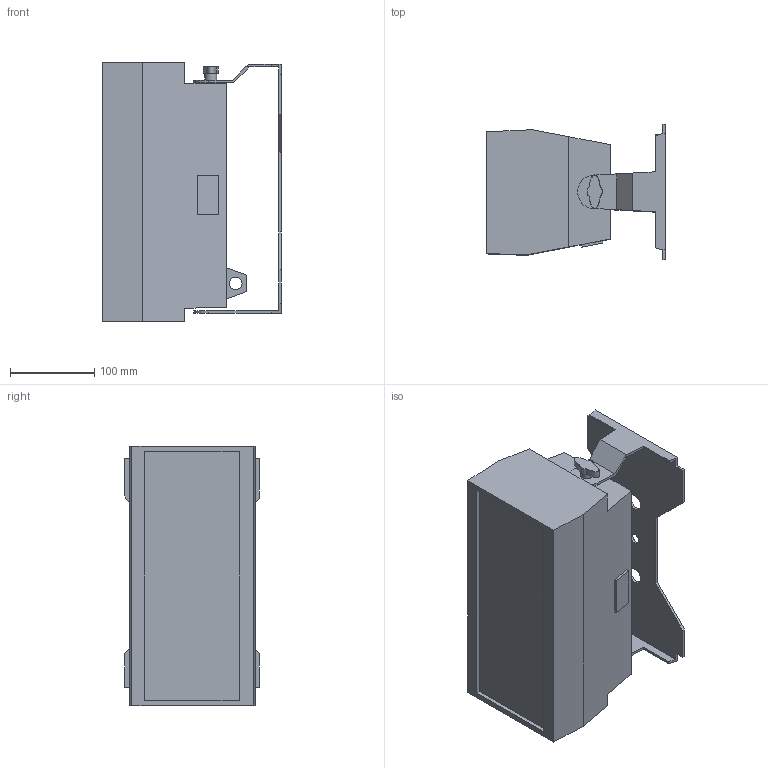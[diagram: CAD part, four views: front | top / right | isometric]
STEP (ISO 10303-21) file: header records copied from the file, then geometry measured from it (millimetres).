
FILE_DESCRIPTION(/* description */ (''),/* implementation_level */ '2;1');
FILE_NAME(/* name */ 'COLORado Solo Bar 1_0_3D.stp',/* time_stamp */ '2024-04-30T10:29:18-04:00',/* author */ ('dgooch'),/* organization */ (''),/* preprocessor_version */ 'ST-DEVELOPER v20',/* originating_system */ 'Autodesk Inventor 2024',/* authorisation */ '');
FILE_SCHEMA (('AUTOMOTIVE_DESIGN { 1 0 10303 214 3 1 1 }'));
Length unit declared in the file: millimetre
Products named in the file (3): COLORado Solo Bar 1_0; Component2; Component3
Assembly tree (2 placements, depth 2):
  COLORado Solo Bar 1_0
    Component2
    Component3
Bounding box: 212.39 x 160 x 308.1 mm (x, y, z)
Volume: 5912905.4 mm3; surface area: 308865.9 mm2
Topology: 2 solids, 2 shells, 99 faces, 252 edges, 166 vertices
Faces by surface type: plane 82, cylinder 13, cone 2, bspline 2
Full cylindrical faces by diameter (mm): 13 x1, 14 x3, 15 x1, 19 x2
Entity records: 4671 total; most frequent: CARTESIAN_POINT 2126, ORIENTED_EDGE 504, DIRECTION 478, EDGE_CURVE 252, LINE 214, VECTOR 214, VERTEX_POINT 166, AXIS2_PLACEMENT_3D 132
